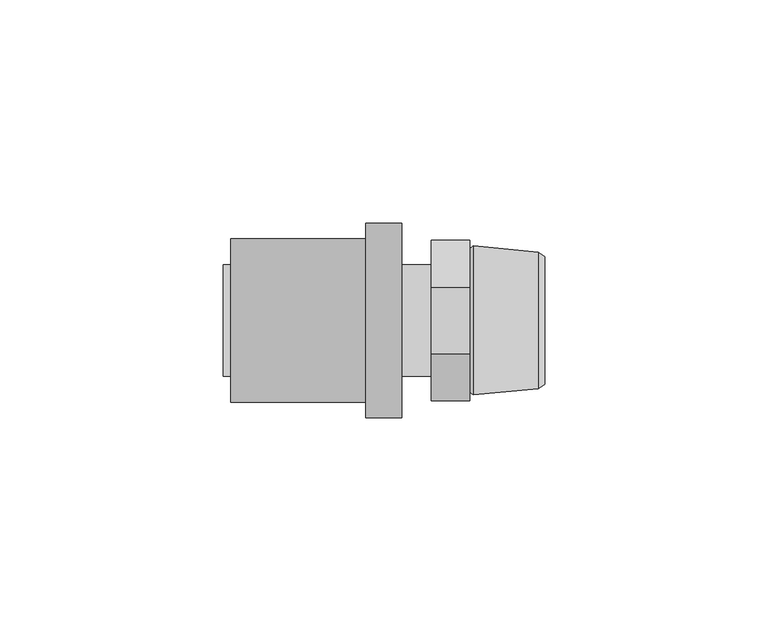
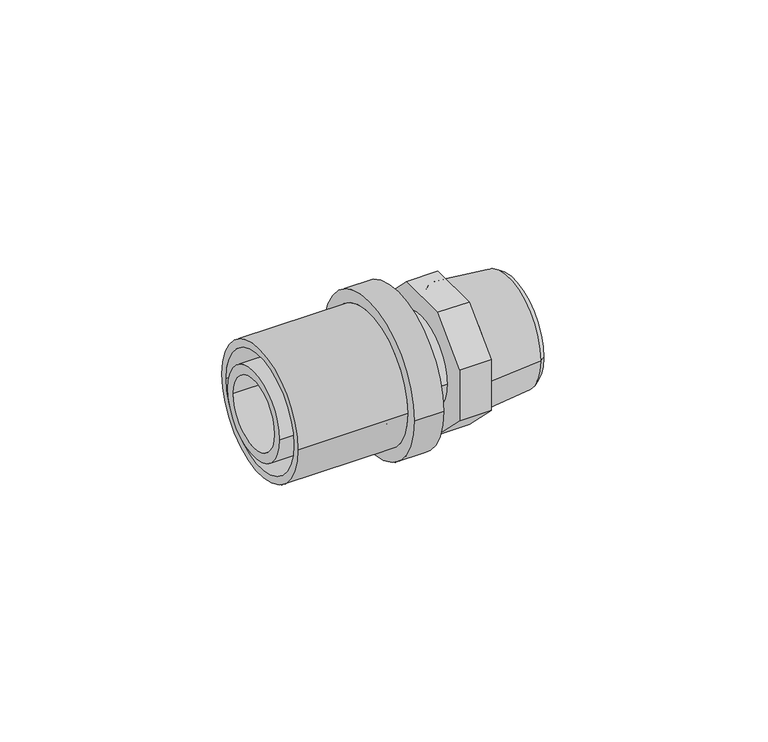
"""IFC4 building model written with IfcOpenShell, lengths in millimetres: pipe fitting geometry, FASTLOC_Adapter_RX+, with external thread : FSL A C external EX+ AT."""

from ifc_helpers import new_model, si_unit, frame, origin, place, context, project, spatial, polyline, circle_curve, outline, extrude, source, transform, mapped, element, save
from ifc_brep_helpers import plane_surface, cylinder_surface, revolved_surface, advanced_brep


def pipe_fitting_b159315d(model_context):
    return source(origin(), model_context, "Body", "SolidModel", [
        advanced_brep(
        [(-14.6, -21.8, 0.0), (-14.6, 21.8, 0.0), (-6.6, 21.8, 0.0), (-6.6, -21.8, 0.0), (-44.9, -18.35, 0.0), (-44.9, 18.35, 0.0), (-14.6, 18.35, 0.0), (-14.6, -18.35, 0.0), (-6.6, -16.2, 0.0), (-6.6, 16.2, 0.0), (-44.9, 16.2, 0.0), (-44.9, -16.2, 0.0)],
        [
            (0, 1, circle_curve(frame((-14.6, 0.0, 0.0), z_axis=(1.0, 0.0, 0.0), x_axis=(0.0, 1.0, 0.0)), 21.8)),
            (1, 2),
            (2, 3, circle_curve(frame((-6.6, 0.0, 0.0), z_axis=(-1.0, 0.0, 0.0), x_axis=(0.0, 1.0, 0.0)), 21.8)),
            (3, 0),
            (4, 5, circle_curve(frame((-44.9, 0.0, 0.0), z_axis=(1.0, 0.0, 0.0), x_axis=(0.0, 1.0, 0.0)), 18.35)),
            (5, 6),
            (6, 7, circle_curve(frame((-14.6, 0.0, 0.0), z_axis=(-1.0, 0.0, 0.0), x_axis=(0.0, 1.0, 0.0)), 18.35)),
            (7, 4),
            (8, 9, circle_curve(frame((-6.6, 0.0, 0.0), z_axis=(1.0, 0.0, 0.0), x_axis=(0.0, 1.0, 0.0)), 16.2)),
            (9, 10),
            (10, 11, circle_curve(frame((-44.9, 0.0, 0.0), z_axis=(-1.0, 0.0, 0.0), x_axis=(0.0, 1.0, 0.0)), 16.2)),
            (11, 8),
            (1, 0, circle_curve(frame((-14.6, 0.0, 0.0), z_axis=(1.0, 0.0, 0.0), x_axis=(0.0, -1.0, 0.0)), 21.8)),
            (3, 2, circle_curve(frame((-6.6, 0.0, 0.0), z_axis=(-1.0, 0.0, 0.0), x_axis=(0.0, -1.0, 0.0)), 21.8)),
            (6, 7, circle_curve(frame((-14.6, 0.0, 0.0), z_axis=(1.0, 0.0, 0.0), x_axis=(0.0, -1.0, 0.0)), 18.35)),
            (5, 4, circle_curve(frame((-44.9, 0.0, 0.0), z_axis=(1.0, 0.0, 0.0), x_axis=(0.0, -1.0, 0.0)), 18.35)),
            (10, 11, circle_curve(frame((-44.9, 0.0, 0.0), z_axis=(1.0, 0.0, 0.0), x_axis=(0.0, -1.0, 0.0)), 16.2)),
            (9, 8, circle_curve(frame((-6.6, 0.0, 0.0), z_axis=(1.0, 0.0, 0.0), x_axis=(0.0, -1.0, 0.0)), 16.2)),
        ],
        [
            cylinder_surface(frame((-6.6, 0.0, 0.0), z_axis=(-1.0, 0.0, 0.0), x_axis=(0.0, 1.0, 0.0)), 21.8),
            cylinder_surface(frame((-6.6, 0.0, 0.0), z_axis=(-1.0, 0.0, 0.0), x_axis=(0.0, 1.0, 0.0)), 18.35),
            revolved_surface(polyline([(-44.9, 16.2, 0.0), (-6.6, 16.2, 0.0)]), (-6.6, 0.0, 0.0), (-1.0, 0.0, 0.0)),
            cylinder_surface(frame((-6.6, 0.0, 0.0), z_axis=(-1.0, 0.0, 0.0), x_axis=(0.0, -1.0, 0.0)), 21.8),
            plane_surface(frame((-14.6, 0.0, 0.0), z_axis=(-1.0, 0.0, 0.0), x_axis=(0.0, -1.0, 0.0))),
            cylinder_surface(frame((-6.6, 0.0, 0.0), z_axis=(-1.0, 0.0, 0.0), x_axis=(0.0, -1.0, 0.0)), 18.35),
            plane_surface(frame((-44.9, 0.0, 0.0), z_axis=(-1.0, 0.0, 0.0), x_axis=(0.0, -1.0, 0.0))),
            revolved_surface(polyline([(-44.9, -16.2, 0.0), (-6.6, -16.2, 0.0)]), (-6.6, 0.0, 0.0), (-1.0, 0.0, 0.0)),
            plane_surface(frame((-6.6, 0.0, 0.0), z_axis=(1.0, 0.0, 0.0), x_axis=(0.0, -1.0, 0.0))),
        ],
        [
            (0, [[1, 2, 3, 4]]),
            (1, [[5, 6, 7, 8]]),
            (2, [[9, 10, 11, 12]]),
            (3, [[13, -4, 14, -2]]),
            (4, [[-13, -1], [15, -7]]),
            (5, [[16, -8, -15, -6]]),
            (6, [[-16, -5], [17, -11]]),
            (7, [[18, -12, -17, -10]]),
            (8, [[-14, -3], [-18, -9]]),
        ],
    ),
        advanced_brep(
        [(9.8032803, 12.0, 0.0), (9.8032803, -12.0, 0.0), (25.5, -12.0, 0.0), (25.5, 12.0, 0.0), (8.7, 10.8967197, 0.0), (8.7, -10.8967197, 0.0), (9.4406902, 16.7, 0.0), (9.4406902, -16.7, 0.0), (8.7, -16.1, 0.0), (8.7, 16.1, 0.0), (24.0000007, 15.3, 0.0), (24.0000007, -15.3, 0.0), (25.5, 14.3, 0.0), (25.5, -14.3, 0.0)],
        [
            (0, 1, circle_curve(frame((9.8032803, 0.0, 0.0), z_axis=(-1.0, 0.0, 0.0), x_axis=(0.0, -1.0, 0.0)), 12.0)),
            (1, 2),
            (2, 3, circle_curve(frame((25.5, 0.0, 0.0), z_axis=(1.0, 0.0, 0.0), x_axis=(0.0, -1.0, 0.0)), 12.0)),
            (3, 0),
            (4, 5, circle_curve(frame((8.7, 0.0, 0.0), z_axis=(-1.0, 0.0, 0.0), x_axis=(0.0, -1.0, 0.0)), 10.8967197)),
            (5, 1),
            (0, 4),
            (6, 7, circle_curve(frame((9.4406902, 0.0, 0.0), z_axis=(-1.0, 0.0, 0.0), x_axis=(0.0, -1.0, 0.0)), 16.7)),
            (7, 8),
            (8, 9, circle_curve(frame((8.7, 0.0, 0.0), z_axis=(1.0, 0.0, 0.0), x_axis=(0.0, -1.0, 0.0)), 16.1)),
            (9, 6),
            (10, 11, circle_curve(frame((24.0000007, 0.0, 0.0), z_axis=(-1.0, 0.0, 0.0), x_axis=(0.0, -1.0, 0.0)), 15.3)),
            (11, 7),
            (6, 10),
            (12, 13, circle_curve(frame((25.5, 0.0, 0.0), z_axis=(-1.0, 0.0, 0.0), x_axis=(0.0, -1.0, 0.0)), 14.3)),
            (13, 11),
            (10, 12),
            (1, 0, circle_curve(frame((9.8032803, 0.0, 0.0), z_axis=(-1.0, 0.0, 0.0), x_axis=(0.0, 1.0, 0.0)), 12.0)),
            (3, 2, circle_curve(frame((25.5, 0.0, 0.0), z_axis=(1.0, 0.0, 0.0), x_axis=(0.0, 1.0, 0.0)), 12.0)),
            (5, 4, circle_curve(frame((8.7, 0.0, 0.0), z_axis=(-1.0, 0.0, 0.0), x_axis=(0.0, 1.0, 0.0)), 10.8967197)),
            (8, 9, circle_curve(frame((8.7, 0.0, 0.0), z_axis=(-1.0, 0.0, 0.0), x_axis=(0.0, 1.0, 0.0)), 16.1)),
            (7, 6, circle_curve(frame((9.4406902, 0.0, 0.0), z_axis=(-1.0, 0.0, 0.0), x_axis=(0.0, 1.0, 0.0)), 16.7)),
            (11, 10, circle_curve(frame((24.0000007, 0.0, 0.0), z_axis=(-1.0, 0.0, 0.0), x_axis=(0.0, 1.0, 0.0)), 15.3)),
            (13, 12, circle_curve(frame((25.5, 0.0, 0.0), z_axis=(-1.0, 0.0, 0.0), x_axis=(0.0, 1.0, 0.0)), 14.3)),
        ],
        [
            revolved_surface(polyline([(25.5, -12.0, 0.0), (9.8032803, -12.0, 0.0)]), (0.0, 0.0, 0.0), (1.0, 0.0, 0.0)),
            revolved_surface(polyline([(9.8032803, -12.0, 0.0), (8.7, -10.8967197, 0.0)]), (0.0, 0.0, 0.0), (1.0, 0.0, 0.0)),
            revolved_surface(polyline([(8.7, -16.1, 0.0), (9.4406902, -16.7, 0.0)]), (0.0, 0.0, 0.0), (1.0, 0.0, 0.0)),
            revolved_surface(polyline([(9.4406902, -16.7, 0.0), (24.0000007, -15.3, 0.0)]), (0.0, 0.0, 0.0), (1.0, 0.0, 0.0)),
            revolved_surface(polyline([(24.0000007, -15.3, 0.0), (25.5, -14.3, 0.0)]), (0.0, 0.0, 0.0), (1.0, 0.0, 0.0)),
            revolved_surface(polyline([(25.5, 12.0, 0.0), (9.8032803, 12.0, 0.0)]), (0.0, 0.0, 0.0), (1.0, 0.0, 0.0)),
            revolved_surface(polyline([(9.8032803, 12.0, 0.0), (8.7, 10.8967197, 0.0)]), (0.0, 0.0, 0.0), (1.0, 0.0, 0.0)),
            plane_surface(frame((8.7, 0.0, 0.0), z_axis=(-1.0, 0.0, 0.0), x_axis=(0.0, 1.0, 0.0))),
            revolved_surface(polyline([(8.7, 16.1, 0.0), (9.4406902, 16.7, 0.0)]), (0.0, 0.0, 0.0), (1.0, 0.0, 0.0)),
            revolved_surface(polyline([(9.4406902, 16.7, 0.0), (24.0000007, 15.3, 0.0)]), (0.0, 0.0, 0.0), (1.0, 0.0, 0.0)),
            revolved_surface(polyline([(24.0000007, 15.3, 0.0), (25.5, 14.3, 0.0)]), (0.0, 0.0, 0.0), (1.0, 0.0, 0.0)),
            plane_surface(frame((25.5, 0.0, 0.0), z_axis=(1.0, 0.0, 0.0), x_axis=(0.0, 1.0, 0.0))),
        ],
        [
            (0, [[1, 2, 3, 4]]),
            (1, [[5, 6, -1, 7]]),
            (2, [[8, 9, 10, 11]]),
            (3, [[12, 13, -8, 14]]),
            (4, [[15, 16, -12, 17]]),
            (5, [[18, -4, 19, -2]]),
            (6, [[20, -7, -18, -6]]),
            (7, [[21, -10], [-20, -5]]),
            (8, [[22, -11, -21, -9]]),
            (9, [[23, -14, -22, -13]]),
            (10, [[24, -17, -23, -16]]),
            (11, [[-24, -15], [-19, -3]]),
        ],
    ),
        extrude(outline(polyline([(-18.0, 7.4558441), (-7.4558441, 18.0), (7.4558441, 18.0), (18.0, 7.4558441), (18.0, -7.4558441), (7.4558441, -18.0), (-7.4558441, -18.0), (-18.0, -7.4558441), (-18.0, 7.4558441)])), frame((0.0, 0.0, 0.0), z_axis=(1.0, 0.0, 0.0), x_axis=(0.0, 1.0, 0.0)), (0.0, 0.0, 1.0), 8.7),
        advanced_brep(
        [(-46.6, 9.85, 0.0), (-46.6, -9.85, 0.0), (0.0, -9.85, 0.0), (0.0, 9.85, 0.0), (0.0, 12.5, 0.0), (0.0, -12.5, 0.0), (-11.6, -12.5, 0.0), (-11.6, 12.5, 0.0), (-11.6, 14.1, 0.0), (-11.6, -14.1, 0.0), (-14.6, -14.1, 0.0), (-14.6, 14.1, 0.0), (-14.6, 12.5, 0.0), (-14.6, -12.5, 0.0), (-46.6, -12.5, 0.0), (-46.6, 12.5, 0.0)],
        [
            (0, 1, circle_curve(frame((-46.6, 0.0, 0.0), z_axis=(-1.0, 0.0, 0.0), x_axis=(0.0, -1.0, 0.0)), 9.85)),
            (1, 2),
            (2, 3, circle_curve(frame((0.0, 0.0, 0.0), z_axis=(1.0, 0.0, 0.0), x_axis=(0.0, -1.0, 0.0)), 9.85)),
            (3, 0),
            (4, 5, circle_curve(frame((0.0, 0.0, 0.0), z_axis=(-1.0, 0.0, 0.0), x_axis=(0.0, -1.0, 0.0)), 12.5)),
            (5, 6),
            (6, 7, circle_curve(frame((-11.6, 0.0, 0.0), z_axis=(1.0, 0.0, 0.0), x_axis=(0.0, -1.0, 0.0)), 12.5)),
            (7, 4),
            (8, 9, circle_curve(frame((-11.6, 0.0, 0.0), z_axis=(-1.0, 0.0, 0.0), x_axis=(0.0, -1.0, 0.0)), 14.1)),
            (9, 10),
            (10, 11, circle_curve(frame((-14.6, 0.0, 0.0), z_axis=(1.0, 0.0, 0.0), x_axis=(0.0, -1.0, 0.0)), 14.1)),
            (11, 8),
            (12, 13, circle_curve(frame((-14.6, 0.0, 0.0), z_axis=(-1.0, 0.0, 0.0), x_axis=(0.0, -1.0, 0.0)), 12.5)),
            (13, 14),
            (14, 15, circle_curve(frame((-46.6, 0.0, 0.0), z_axis=(1.0, 0.0, 0.0), x_axis=(0.0, -1.0, 0.0)), 12.5)),
            (15, 12),
            (1, 0, circle_curve(frame((-46.6, 0.0, 0.0), z_axis=(-1.0, 0.0, 0.0), x_axis=(0.0, 1.0, 0.0)), 9.85)),
            (3, 2, circle_curve(frame((0.0, 0.0, 0.0), z_axis=(1.0, 0.0, 0.0), x_axis=(0.0, 1.0, 0.0)), 9.85)),
            (4, 5, circle_curve(frame((0.0, 0.0, 0.0), z_axis=(1.0, 0.0, 0.0), x_axis=(0.0, 1.0, 0.0)), 12.5)),
            (7, 6, circle_curve(frame((-11.6, 0.0, 0.0), z_axis=(1.0, 0.0, 0.0), x_axis=(0.0, 1.0, 0.0)), 12.5)),
            (8, 9, circle_curve(frame((-11.6, 0.0, 0.0), z_axis=(1.0, 0.0, 0.0), x_axis=(0.0, 1.0, 0.0)), 14.1)),
            (11, 10, circle_curve(frame((-14.6, 0.0, 0.0), z_axis=(1.0, 0.0, 0.0), x_axis=(0.0, 1.0, 0.0)), 14.1)),
            (12, 13, circle_curve(frame((-14.6, 0.0, 0.0), z_axis=(1.0, 0.0, 0.0), x_axis=(0.0, 1.0, 0.0)), 12.5)),
            (15, 14, circle_curve(frame((-46.6, 0.0, 0.0), z_axis=(1.0, 0.0, 0.0), x_axis=(0.0, 1.0, 0.0)), 12.5)),
        ],
        [
            revolved_surface(polyline([(0.0, -9.85, 0.0), (-46.6, -9.85, 0.0)]), (0.0, 0.0, 0.0), (1.0, 0.0, 0.0)),
            cylinder_surface(frame((0.0, 0.0, 0.0), z_axis=(1.0, 0.0, 0.0), x_axis=(0.0, -1.0, 0.0)), 12.5),
            cylinder_surface(frame((0.0, 0.0, 0.0), z_axis=(1.0, 0.0, 0.0), x_axis=(0.0, -1.0, 0.0)), 14.1),
            revolved_surface(polyline([(0.0, 9.85, 0.0), (-46.6, 9.85, 0.0)]), (0.0, 0.0, 0.0), (1.0, 0.0, 0.0)),
            plane_surface(frame((0.0, 0.0, 0.0), z_axis=(1.0, 0.0, 0.0), x_axis=(0.0, 1.0, 0.0))),
            cylinder_surface(frame((0.0, 0.0, 0.0), z_axis=(1.0, 0.0, 0.0), x_axis=(0.0, 1.0, 0.0)), 12.5),
            plane_surface(frame((-11.6, 0.0, 0.0), z_axis=(1.0, 0.0, 0.0), x_axis=(0.0, 1.0, 0.0))),
            cylinder_surface(frame((0.0, 0.0, 0.0), z_axis=(1.0, 0.0, 0.0), x_axis=(0.0, 1.0, 0.0)), 14.1),
            plane_surface(frame((-14.6, 0.0, 0.0), z_axis=(-1.0, 0.0, 0.0), x_axis=(0.0, 1.0, 0.0))),
            plane_surface(frame((-46.6, 0.0, 0.0), z_axis=(-1.0, 0.0, 0.0), x_axis=(0.0, 1.0, 0.0))),
        ],
        [
            (0, [[1, 2, 3, 4]]),
            (1, [[5, 6, 7, 8]]),
            (2, [[9, 10, 11, 12]]),
            (1, [[13, 14, 15, 16]]),
            (3, [[17, -4, 18, -2]]),
            (4, [[19, -5], [-18, -3]]),
            (5, [[-19, -8, 20, -6]]),
            (6, [[21, -9], [-20, -7]]),
            (7, [[-21, -12, 22, -10]]),
            (8, [[-22, -11], [23, -13]]),
            (5, [[-23, -16, 24, -14]]),
            (9, [[-24, -15], [-17, -1]]),
        ],
    ),
    ])


if __name__ == "__main__":
    model = new_model("IFC4")
    model_context = context("Model", 3, world=origin())
    ifc_project = project(units=[si_unit("LENGTHUNIT", "METRE", prefix="MILLI")], contexts=[model_context])
    site = spatial("IfcSite", under=ifc_project)
    building = spatial("IfcBuilding", under=site)
    placement = place(None, origin())
    pipe_fitting_shape = pipe_fitting_b159315d(model_context)
    element("IfcPipeFitting", 1, ObjectType="FASTLOC_Adapter_RX+, with external thread : FSL A C external EX+ AT", at=placement, inside=building, context=model_context, shape_type="MappedRepresentation", body=[
        mapped(pipe_fitting_shape, transform((0.0, 0.0, 0.0), x_axis=(1.0, 0.0, 0.0), y_axis=(0.0, 1.0, 0.0), z_axis=(0.0, 0.0, 1.0))),
    ])
    save(model, "model.ifc")
